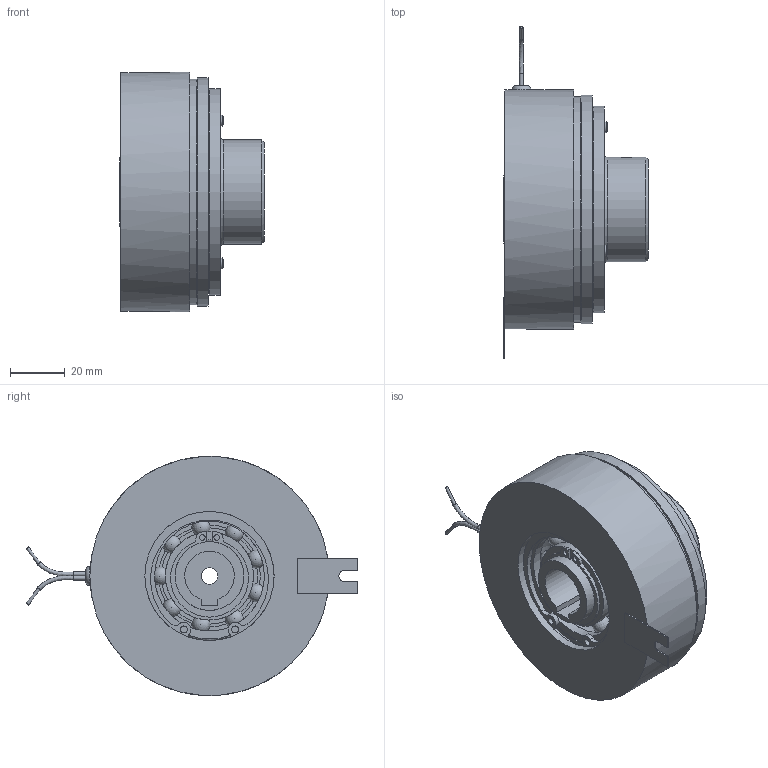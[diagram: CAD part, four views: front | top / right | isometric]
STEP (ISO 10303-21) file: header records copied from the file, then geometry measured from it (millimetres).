
FILE_DESCRIPTION(/* description */ (''),/* implementation_level */ '2;1');
FILE_NAME(/* name */ 'X:\INVENTOR\DISEGNI\08_Freni_Friz_Elettmag_Monodisco\08_25 EMSL\08_25_080_02 EMSL080_ME\08_25_080_02 EMSL080_ME@STEP.stp',/* time_stamp */ '2017-07-11T15:32:00+02:00',/* author */ ('stefano'),/* organization */ (''),/* preprocessor_version */ 'ST-DEVELOPER v16.1',/* originating_system */ 'Autodesk Inventor 2016',/* authorisation */ '');
FILE_SCHEMA (('CONFIG_CONTROL_DESIGN'));
Length unit declared in the file: millimetre
Products named in the file (1): 08_25_080_02 EMSL080_ME_Substitute_1
Bounding box: 52.7 x 120.72 x 87 mm (x, y, z)
Volume: 178355.4 mm3; surface area: 60689.4 mm2
Topology: 2 solids, 2 shells, 268 faces, 674 edges, 441 vertices
Faces by surface type: plane 118, cylinder 98, torus 28, cone 10, sphere 9, bspline 5
Full cylindrical faces by diameter (mm): 1.154 x2, 1.5 x2, 2 x2, 2.5 x5, 4 x6, 4.1 x3, 4.917 x1, 6 x1, 7.6 x3, 8 x3, 11 x6, 23.9 x1, 25 x2, 32.04 x2, 35 x1, 37 x1, 38 x1, 39.96 x2, 42 x1, 47 x3, 49.5 x1, 51 x1, 60 x2, 73 x1, 75 x1, 76 x2, 82 x1, 82.2 x1, 83 x1, 87 x1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
Entity records: 8787 total; most frequent: CARTESIAN_POINT 2542, DIRECTION 1257, ORIENTED_EDGE 1084, AXIS2_PLACEMENT_3D 557, EDGE_CURVE 537, EDGE_LOOP 424, VERTEX_POINT 394, CIRCLE 293
